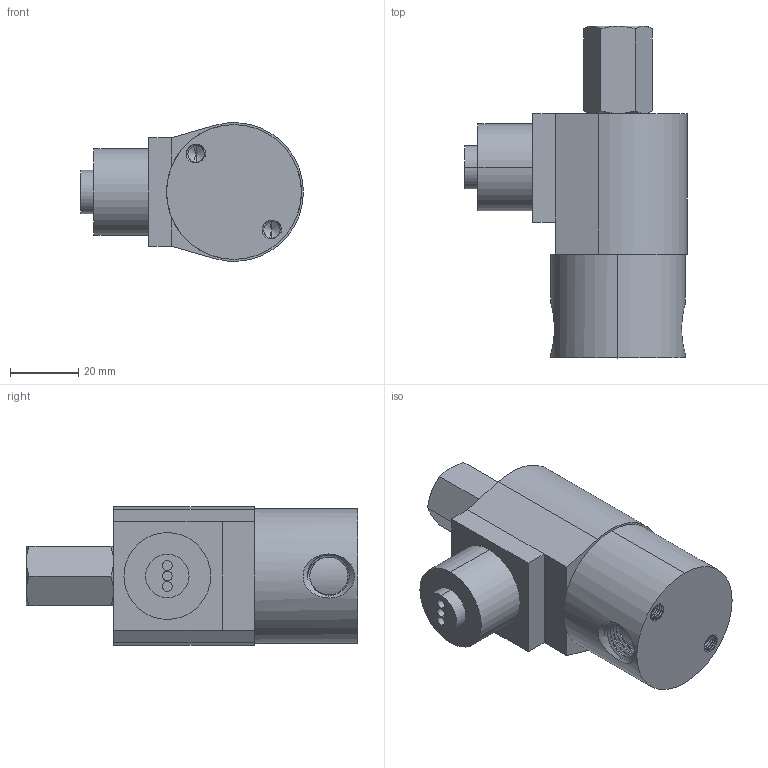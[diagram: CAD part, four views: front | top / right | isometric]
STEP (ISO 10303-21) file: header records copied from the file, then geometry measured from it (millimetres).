
FILE_DESCRIPTION (( 'STEP AP203' ), '1' );
FILE_NAME ('S306G_B.STEP', '2022-07-11T13:43:35', ( '' ), ( '' ), 'SwSTEP 2.0', 'SolidWorks 2022', '' );
FILE_SCHEMA (( 'CONFIG_CONTROL_DESIGN' ));
Length unit declared in the file: inch
Products named in the file (1): S306G_B
Bounding box: 65.23 x 97.16 x 40.57 mm (x, y, z)
Volume: 109721.2 mm3; surface area: 18337.8 mm2
Topology: 1 solids, 1 shells, 157 faces, 429 edges, 279 vertices
Faces by surface type: cylinder 87, plane 26, bspline 26, cone 18
Entity records: 15720 total; most frequent: CARTESIAN_POINT 12389, ORIENTED_EDGE 846, DIRECTION 497, EDGE_CURVE 423, VERTEX_POINT 279, AXIS2_PLACEMENT_3D 182, EDGE_LOOP 168, ADVANCED_FACE 157
